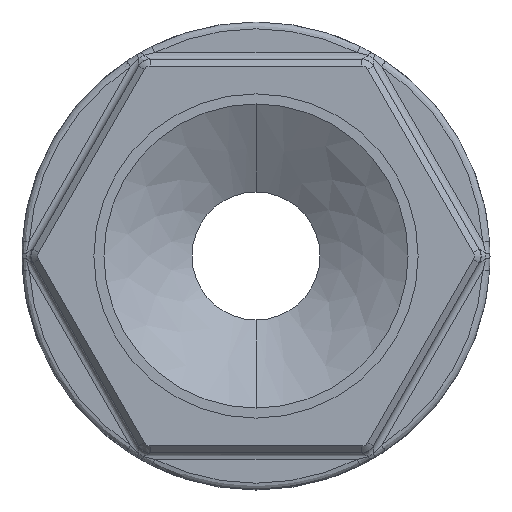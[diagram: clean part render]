
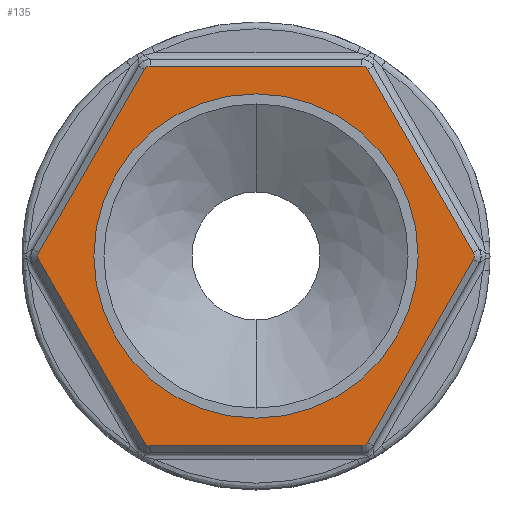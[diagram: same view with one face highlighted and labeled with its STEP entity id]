
A CAD part, front view. The second image highlights one B-rep face of the part: STEP entity #135.
In plain terms, the highlighted planar face has unit normal (0, -1, 0).
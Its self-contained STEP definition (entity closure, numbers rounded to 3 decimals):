
#135=ADVANCED_FACE('',(#1133,#1134),#1132,.F.);
#1132=PLANE('',#2670);
#1133=FACE_OUTER_BOUND('',#2671,.T.);
#1134=FACE_BOUND('',#2672,.T.);
#2667=CARTESIAN_POINT('',(-38.798,0.,-33.6));
#2668=DIRECTION('',(0.,1.,0.));
#2669=DIRECTION('',(0.,0.,1.));
#2670=AXIS2_PLACEMENT_3D('',#2667,#2668,#2669);
#2671=EDGE_LOOP('',(#3438,#3439,#3440,#3441,#3442,#3443,#3444,#3445,#3446,#3447,#3448,#3449));
#2672=EDGE_LOOP('',(#3450,#3451));
#3438=ORIENTED_EDGE('',*,*,#3766,.T.);
#3439=ORIENTED_EDGE('',*,*,#3760,.T.);
#3440=ORIENTED_EDGE('',*,*,#3762,.T.);
#3441=ORIENTED_EDGE('',*,*,#3768,.T.);
#3442=ORIENTED_EDGE('',*,*,#3773,.T.);
#3443=ORIENTED_EDGE('',*,*,#3779,.T.);
#3444=ORIENTED_EDGE('',*,*,#3785,.T.);
#3445=ORIENTED_EDGE('',*,*,#3791,.T.);
#3446=ORIENTED_EDGE('',*,*,#3789,.T.);
#3447=ORIENTED_EDGE('',*,*,#3783,.T.);
#3448=ORIENTED_EDGE('',*,*,#3777,.T.);
#3449=ORIENTED_EDGE('',*,*,#3771,.T.);
#3450=ORIENTED_EDGE('',*,*,#3946,.F.);
#3451=ORIENTED_EDGE('',*,*,#3947,.F.);
#3760=EDGE_CURVE('',#4465,#4480,#4487,.T.);
#3762=EDGE_CURVE('',#4480,#4493,#4500,.T.);
#3766=EDGE_CURVE('',#4512,#4465,#4526,.T.);
#3768=EDGE_CURVE('',#4493,#4532,#4539,.T.);
#3771=EDGE_CURVE('',#4545,#4512,#4559,.T.);
#3773=EDGE_CURVE('',#4532,#4566,#4573,.T.);
#3777=EDGE_CURVE('',#4585,#4545,#4599,.T.);
#3779=EDGE_CURVE('',#4566,#4606,#4613,.T.);
#3783=EDGE_CURVE('',#4625,#4585,#4639,.T.);
#3785=EDGE_CURVE('',#4606,#4646,#4653,.T.);
#3789=EDGE_CURVE('',#4665,#4625,#4679,.T.);
#3791=EDGE_CURVE('',#4646,#4665,#4691,.T.);
#3946=EDGE_CURVE('',#5705,#5706,#5707,.T.);
#3947=EDGE_CURVE('',#5706,#5705,#5713,.T.);
#4465=VERTEX_POINT('',#6325);
#4480=VERTEX_POINT('',#6335);
#4487=CIRCLE('',#6342,1.);
#4493=VERTEX_POINT('',#6343);
#4500=LINE('',#6347,#6348);
#4512=VERTEX_POINT('',#6353);
#4526=LINE('',#6361,#6362);
#4532=VERTEX_POINT('',#6364);
#4539=CIRCLE('',#6371,1.);
#4545=VERTEX_POINT('',#6372);
#4559=CIRCLE('',#6384,1.);
#4566=VERTEX_POINT('',#6386);
#4573=LINE('',#6390,#6391);
#4585=VERTEX_POINT('',#6396);
#4599=LINE('',#6404,#6405);
#4606=VERTEX_POINT('',#6408);
#4613=CIRCLE('',#6415,1.);
#4625=VERTEX_POINT('',#6420);
#4639=CIRCLE('',#6432,1.);
#4646=VERTEX_POINT('',#6434);
#4653=LINE('',#6438,#6439);
#4665=VERTEX_POINT('',#6444);
#4679=LINE('',#6452,#6453);
#4691=CIRCLE('',#6462,1.);
#5705=VERTEX_POINT('',#7222);
#5706=VERTEX_POINT('',#7223);
#5707=CIRCLE('',#7227,23.902);
#5713=CIRCLE('',#7231,23.902);
#6325=CARTESIAN_POINT('',(32.043,0.,-0.5));
#6335=CARTESIAN_POINT('',(32.043,0.,0.5));
#6339=CARTESIAN_POINT('',(31.177,0.,0.));
#6340=DIRECTION('',(0.,-1.,0.));
#6341=DIRECTION('',(0.,0.,-1.));
#6342=AXIS2_PLACEMENT_3D('',#6339,#6340,#6341);
#6343=CARTESIAN_POINT('',(16.454,0.,27.5));
#6347=CARTESIAN_POINT('',(32.043,0.,0.5));
#6348=VECTOR('',#6349,31.177);
#6349=DIRECTION('',(-0.5,0.,0.866));
#6353=CARTESIAN_POINT('',(16.454,0.,-27.5));
#6361=CARTESIAN_POINT('',(16.454,0.,-27.5));
#6362=VECTOR('',#6363,31.177);
#6363=DIRECTION('',(0.5,0.,0.866));
#6364=CARTESIAN_POINT('',(15.588,0.,28.));
#6368=CARTESIAN_POINT('',(15.588,0.,27.));
#6369=DIRECTION('',(0.,-1.,0.));
#6370=DIRECTION('',(0.,0.,-1.));
#6371=AXIS2_PLACEMENT_3D('',#6368,#6369,#6370);
#6372=CARTESIAN_POINT('',(15.588,0.,-28.));
#6381=CARTESIAN_POINT('',(15.588,0.,-27.));
#6382=DIRECTION('',(0.,-1.,0.));
#6383=DIRECTION('',(0.,0.,-1.));
#6384=AXIS2_PLACEMENT_3D('',#6381,#6382,#6383);
#6386=CARTESIAN_POINT('',(-15.588,0.,28.));
#6390=CARTESIAN_POINT('',(15.588,0.,28.));
#6391=VECTOR('',#6392,31.177);
#6392=DIRECTION('',(-1.,0.,0.));
#6396=CARTESIAN_POINT('',(-15.588,0.,-28.));
#6404=CARTESIAN_POINT('',(-15.588,0.,-28.));
#6405=VECTOR('',#6406,31.177);
#6406=DIRECTION('',(1.,0.,0.));
#6408=CARTESIAN_POINT('',(-16.454,0.,27.5));
#6412=CARTESIAN_POINT('',(-15.588,0.,27.));
#6413=DIRECTION('',(0.,-1.,0.));
#6414=DIRECTION('',(0.,0.,-1.));
#6415=AXIS2_PLACEMENT_3D('',#6412,#6413,#6414);
#6420=CARTESIAN_POINT('',(-16.454,0.,-27.5));
#6429=CARTESIAN_POINT('',(-15.588,0.,-27.));
#6430=DIRECTION('',(0.,-1.,0.));
#6431=DIRECTION('',(0.,0.,-1.));
#6432=AXIS2_PLACEMENT_3D('',#6429,#6430,#6431);
#6434=CARTESIAN_POINT('',(-32.043,0.,0.5));
#6438=CARTESIAN_POINT('',(-16.454,0.,27.5));
#6439=VECTOR('',#6440,31.177);
#6440=DIRECTION('',(-0.5,0.,-0.866));
#6444=CARTESIAN_POINT('',(-32.043,0.,-0.5));
#6452=CARTESIAN_POINT('',(-32.043,0.,-0.5));
#6453=VECTOR('',#6454,31.177);
#6454=DIRECTION('',(0.5,0.,-0.866));
#6459=CARTESIAN_POINT('',(-31.177,0.,0.));
#6460=DIRECTION('',(0.,-1.,0.));
#6461=DIRECTION('',(0.,0.,-1.));
#6462=AXIS2_PLACEMENT_3D('',#6459,#6460,#6461);
#7222=CARTESIAN_POINT('',(0.,0.,-23.902));
#7223=CARTESIAN_POINT('',(0.,0.,23.902));
#7224=CARTESIAN_POINT('',(0.,0.,0.));
#7225=DIRECTION('',(0.,-1.,0.));
#7226=DIRECTION('',(0.,0.,1.));
#7227=AXIS2_PLACEMENT_3D('',#7224,#7225,#7226);
#7228=CARTESIAN_POINT('',(0.,0.,0.));
#7229=DIRECTION('',(0.,-1.,0.));
#7230=DIRECTION('',(0.,0.,1.));
#7231=AXIS2_PLACEMENT_3D('',#7228,#7229,#7230);
